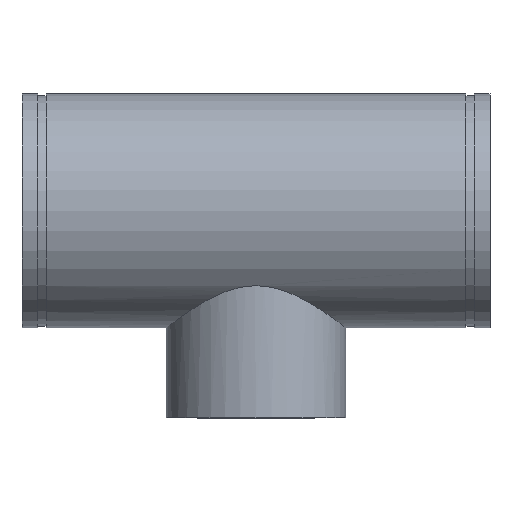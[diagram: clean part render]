
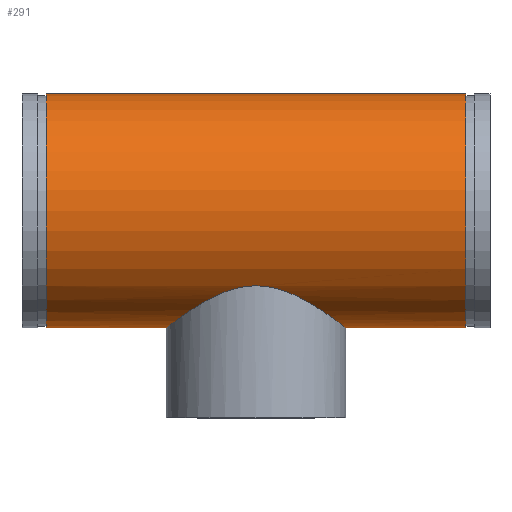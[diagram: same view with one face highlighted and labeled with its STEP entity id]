
A CAD part, top view. The second image highlights one B-rep face of the part: STEP entity #291.
In plain terms, the highlighted cylindrical face has radius 177.8 mm (diameter 355.6 mm), a full revolution.
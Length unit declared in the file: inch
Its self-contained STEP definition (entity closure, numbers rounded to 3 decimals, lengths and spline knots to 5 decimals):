
#45=B_SPLINE_CURVE_WITH_KNOTS('',3,(#511,#512,#513,#514,#515,#516,#517,
#518,#519,#520,#521,#522,#523,#524,#525,#526,#527,#528,#529,#530,#531,#532,
#533,#534,#535,#536,#537,#538,#539,#540,#541,#542,#543,#544,#545,#546,#547,
#548,#549,#550,#551,#552,#553,#554,#555,#556,#557,#558,#559,#560,#561,#562,
#563,#564,#565,#566),.UNSPECIFIED.,.F.,.F.,(4,2,2,2,2,2,2,2,2,2,2,2,2,2,
2,2,2,2,2,2,2,2,2,2,2,2,2,4),(0.,1.38311,2.76622,5.53244,
8.29867,11.06489,13.76426,16.46363,19.163,
21.86238,24.56175,27.26112,29.96049,32.65987,
35.42609,38.19231,40.95853,42.34164,43.72475,
45.10786,46.49098,49.2572,52.02342,54.78964,
57.48901,60.18839,62.88776,65.58713),
 .UNSPECIFIED.);
#46=B_SPLINE_CURVE_WITH_KNOTS('',3,(#567,#568,#569,#570,#571,#572,#573,
#574,#575,#576,#577,#578,#579,#580,#581,#582,#583,#584,#585,#586),
 .UNSPECIFIED.,.F.,.F.,(4,2,2,2,2,2,2,2,2,4),(65.58713,68.2865,
70.98587,73.68525,76.38462,79.15084,81.91706,
84.68328,86.0664,87.44951),.UNSPECIFIED.);
#51=LINE('',#508,#59);
#59=VECTOR('',#410,7.);
#67=CYLINDRICAL_SURFACE('',#338,7.);
#77=FACE_BOUND('',#108,.T.);
#88=FACE_OUTER_BOUND('',#107,.T.);
#107=EDGE_LOOP('',(#221,#222,#223,#224));
#108=EDGE_LOOP('',(#225,#226));
#121=CIRCLE('',#321,7.);
#132=CIRCLE('',#337,7.);
#141=VERTEX_POINT('',#476);
#152=VERTEX_POINT('',#505);
#153=VERTEX_POINT('',#509);
#154=VERTEX_POINT('',#510);
#165=EDGE_CURVE('',#141,#141,#121,.T.);
#178=EDGE_CURVE('',#152,#152,#132,.T.);
#179=EDGE_CURVE('',#152,#141,#51,.T.);
#180=EDGE_CURVE('',#153,#154,#45,.T.);
#181=EDGE_CURVE('',#154,#153,#46,.T.);
#221=ORIENTED_EDGE('',*,*,#178,.T.);
#222=ORIENTED_EDGE('',*,*,#179,.T.);
#223=ORIENTED_EDGE('',*,*,#165,.T.);
#224=ORIENTED_EDGE('',*,*,#179,.F.);
#225=ORIENTED_EDGE('',*,*,#180,.F.);
#226=ORIENTED_EDGE('',*,*,#181,.F.);
#291=ADVANCED_FACE('',(#88,#77),#67,.T.);
#321=AXIS2_PLACEMENT_3D('',#477,#372,#373);
#337=AXIS2_PLACEMENT_3D('',#506,#406,#407);
#338=AXIS2_PLACEMENT_3D('',#507,#408,#409);
#372=DIRECTION('center_axis',(-1.,0.,0.));
#373=DIRECTION('ref_axis',(0.,-1.,0.));
#406=DIRECTION('center_axis',(1.,0.,0.));
#407=DIRECTION('ref_axis',(0.,-1.,0.));
#408=DIRECTION('center_axis',(-1.,0.,0.));
#409=DIRECTION('ref_axis',(0.,-1.,0.));
#410=DIRECTION('',(1.,0.,0.));
#476=CARTESIAN_POINT('',(12.562,7.,0.));
#477=CARTESIAN_POINT('Origin',(12.562,0.,0.));
#505=CARTESIAN_POINT('',(-12.562,7.,0.));
#506=CARTESIAN_POINT('Origin',(-12.562,0.,0.));
#507=CARTESIAN_POINT('Origin',(14.,0.,0.));
#508=CARTESIAN_POINT('',(14.,7.,0.));
#509=CARTESIAN_POINT('',(0.,-4.48435,-5.375));
#510=CARTESIAN_POINT('',(-5.375,-7.,0.));
#511=CARTESIAN_POINT('Ctrl Pts',(0.,-4.48435,-5.375));
#512=CARTESIAN_POINT('Ctrl Pts',(0.18151,-4.48435,-5.375));
#513=CARTESIAN_POINT('Ctrl Pts',(0.36305,-4.49546,-5.36578));
#514=CARTESIAN_POINT('Ctrl Pts',(0.72353,-4.53882,-5.32916));
#515=CARTESIAN_POINT('Ctrl Pts',(0.90247,-4.57104,-5.30176));
#516=CARTESIAN_POINT('Ctrl Pts',(1.43177,-4.69485,-5.1933));
#517=CARTESIAN_POINT('Ctrl Pts',(1.7747,-4.81374,-5.08587));
#518=CARTESIAN_POINT('Ctrl Pts',(2.4256,-5.0898,-4.80958));
#519=CARTESIAN_POINT('Ctrl Pts',(2.73416,-5.24681,-4.64047));
#520=CARTESIAN_POINT('Ctrl Pts',(3.30501,-5.56565,-4.25283));
#521=CARTESIAN_POINT('Ctrl Pts',(3.56725,-5.72738,-4.03415));
#522=CARTESIAN_POINT('Ctrl Pts',(4.02851,-6.02562,-3.57289));
#523=CARTESIAN_POINT('Ctrl Pts',(4.2459,-6.17397,-3.31393));
#524=CARTESIAN_POINT('Ctrl Pts',(4.635,-6.44775,-2.74347));
#525=CARTESIAN_POINT('Ctrl Pts',(4.80672,-6.57306,-2.43191));
#526=CARTESIAN_POINT('Ctrl Pts',(5.08673,-6.78051,-1.77312));
#527=CARTESIAN_POINT('Ctrl Pts',(5.19525,-6.86278,-1.42514));
#528=CARTESIAN_POINT('Ctrl Pts',(5.33942,-6.97256,-0.71571));
#529=CARTESIAN_POINT('Ctrl Pts',(5.375,-7.,-0.35425));
#530=CARTESIAN_POINT('Ctrl Pts',(5.375,-7.,0.35425));
#531=CARTESIAN_POINT('Ctrl Pts',(5.33942,-6.97256,0.71571));
#532=CARTESIAN_POINT('Ctrl Pts',(5.19525,-6.86278,1.42514));
#533=CARTESIAN_POINT('Ctrl Pts',(5.08673,-6.78051,1.77312));
#534=CARTESIAN_POINT('Ctrl Pts',(4.80672,-6.57306,2.43191));
#535=CARTESIAN_POINT('Ctrl Pts',(4.635,-6.44775,2.74347));
#536=CARTESIAN_POINT('Ctrl Pts',(4.2459,-6.17397,3.31393));
#537=CARTESIAN_POINT('Ctrl Pts',(4.02851,-6.02562,3.57289));
#538=CARTESIAN_POINT('Ctrl Pts',(3.56725,-5.72738,4.03415));
#539=CARTESIAN_POINT('Ctrl Pts',(3.30501,-5.56565,4.25283));
#540=CARTESIAN_POINT('Ctrl Pts',(2.73416,-5.24681,4.64047));
#541=CARTESIAN_POINT('Ctrl Pts',(2.4256,-5.0898,4.80958));
#542=CARTESIAN_POINT('Ctrl Pts',(1.7747,-4.81374,5.08587));
#543=CARTESIAN_POINT('Ctrl Pts',(1.43177,-4.69485,5.1933));
#544=CARTESIAN_POINT('Ctrl Pts',(0.90247,-4.57104,5.30176));
#545=CARTESIAN_POINT('Ctrl Pts',(0.72353,-4.53882,5.32916));
#546=CARTESIAN_POINT('Ctrl Pts',(0.36305,-4.49546,5.36578));
#547=CARTESIAN_POINT('Ctrl Pts',(0.18151,-4.48435,5.375));
#548=CARTESIAN_POINT('Ctrl Pts',(-0.18151,-4.48435,5.375));
#549=CARTESIAN_POINT('Ctrl Pts',(-0.36305,-4.49546,5.36578));
#550=CARTESIAN_POINT('Ctrl Pts',(-0.72353,-4.53882,5.32916));
#551=CARTESIAN_POINT('Ctrl Pts',(-0.90247,-4.57104,5.30176));
#552=CARTESIAN_POINT('Ctrl Pts',(-1.43177,-4.69485,5.1933));
#553=CARTESIAN_POINT('Ctrl Pts',(-1.7747,-4.81374,5.08587));
#554=CARTESIAN_POINT('Ctrl Pts',(-2.4256,-5.0898,4.80958));
#555=CARTESIAN_POINT('Ctrl Pts',(-2.73416,-5.24681,4.64047));
#556=CARTESIAN_POINT('Ctrl Pts',(-3.30501,-5.56565,4.25283));
#557=CARTESIAN_POINT('Ctrl Pts',(-3.56725,-5.72738,4.03415));
#558=CARTESIAN_POINT('Ctrl Pts',(-4.02851,-6.02562,3.57289));
#559=CARTESIAN_POINT('Ctrl Pts',(-4.2459,-6.17397,3.31393));
#560=CARTESIAN_POINT('Ctrl Pts',(-4.635,-6.44775,2.74347));
#561=CARTESIAN_POINT('Ctrl Pts',(-4.80672,-6.57306,2.43191));
#562=CARTESIAN_POINT('Ctrl Pts',(-5.08673,-6.78051,1.77312));
#563=CARTESIAN_POINT('Ctrl Pts',(-5.19525,-6.86278,1.42514));
#564=CARTESIAN_POINT('Ctrl Pts',(-5.33942,-6.97256,0.71571));
#565=CARTESIAN_POINT('Ctrl Pts',(-5.375,-7.,0.35425));
#566=CARTESIAN_POINT('Ctrl Pts',(-5.375,-7.,0.));
#567=CARTESIAN_POINT('Ctrl Pts',(-5.375,-7.,0.));
#568=CARTESIAN_POINT('Ctrl Pts',(-5.375,-7.,-0.35425));
#569=CARTESIAN_POINT('Ctrl Pts',(-5.33942,-6.97256,-0.71571));
#570=CARTESIAN_POINT('Ctrl Pts',(-5.19525,-6.86278,-1.42514));
#571=CARTESIAN_POINT('Ctrl Pts',(-5.08673,-6.78051,-1.77312));
#572=CARTESIAN_POINT('Ctrl Pts',(-4.80672,-6.57306,-2.43191));
#573=CARTESIAN_POINT('Ctrl Pts',(-4.635,-6.44775,-2.74347));
#574=CARTESIAN_POINT('Ctrl Pts',(-4.2459,-6.17397,-3.31393));
#575=CARTESIAN_POINT('Ctrl Pts',(-4.02851,-6.02562,-3.57289));
#576=CARTESIAN_POINT('Ctrl Pts',(-3.56725,-5.72738,-4.03415));
#577=CARTESIAN_POINT('Ctrl Pts',(-3.30501,-5.56565,-4.25283));
#578=CARTESIAN_POINT('Ctrl Pts',(-2.73416,-5.24681,-4.64047));
#579=CARTESIAN_POINT('Ctrl Pts',(-2.4256,-5.0898,-4.80958));
#580=CARTESIAN_POINT('Ctrl Pts',(-1.7747,-4.81374,-5.08587));
#581=CARTESIAN_POINT('Ctrl Pts',(-1.43177,-4.69485,-5.1933));
#582=CARTESIAN_POINT('Ctrl Pts',(-0.90247,-4.57104,-5.30176));
#583=CARTESIAN_POINT('Ctrl Pts',(-0.72353,-4.53882,-5.32916));
#584=CARTESIAN_POINT('Ctrl Pts',(-0.36305,-4.49546,-5.36578));
#585=CARTESIAN_POINT('Ctrl Pts',(-0.18151,-4.48435,-5.375));
#586=CARTESIAN_POINT('Ctrl Pts',(0.,-4.48435,-5.375));
